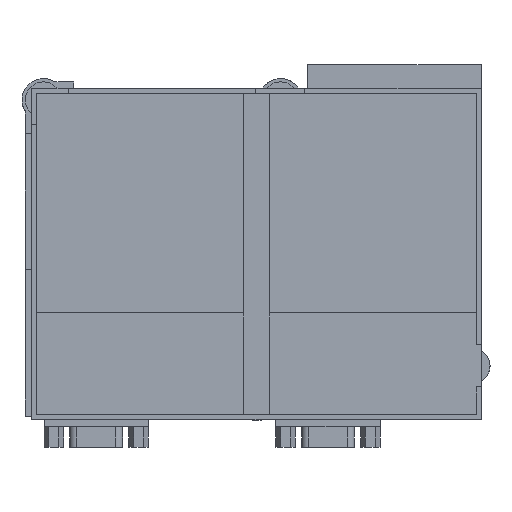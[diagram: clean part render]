
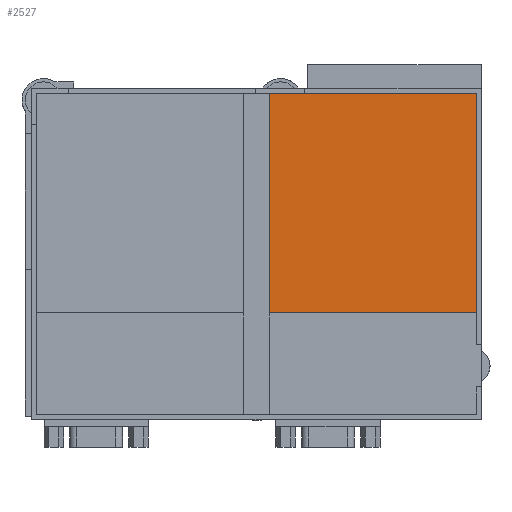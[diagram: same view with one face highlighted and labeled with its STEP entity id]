
A CAD part, top view. The second image highlights one B-rep face of the part: STEP entity #2527.
In plain terms, the highlighted planar face has unit normal (0, 0, 1).
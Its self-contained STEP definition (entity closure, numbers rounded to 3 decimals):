
#245=DIRECTION('',(1.,0.,0.));
#246=VECTOR('',#245,61.1);
#247=CARTESIAN_POINT('',(70.,96.3,-9.5));
#248=LINE('',#247,#246);
#249=DIRECTION('',(0.,-1.,0.));
#250=VECTOR('',#249,64.8);
#251=CARTESIAN_POINT('',(131.1,96.3,-9.5));
#252=LINE('',#251,#250);
#253=DIRECTION('',(-1.,0.,0.));
#254=VECTOR('',#253,61.1);
#255=CARTESIAN_POINT('',(131.1,31.5,-9.5));
#256=LINE('',#255,#254);
#277=DIRECTION('',(0.,1.,0.));
#278=VECTOR('',#277,64.8);
#279=CARTESIAN_POINT('',(70.,31.5,-9.5));
#280=LINE('',#279,#278);
#2011=CARTESIAN_POINT('',(131.1,96.3,-9.5));
#2012=VERTEX_POINT('',#2011);
#2023=CARTESIAN_POINT('',(131.1,31.5,-9.5));
#2024=CARTESIAN_POINT('',(70.,31.5,-9.5));
#2025=VERTEX_POINT('',#2023);
#2026=VERTEX_POINT('',#2024);
#2148=CARTESIAN_POINT('',(70.,96.3,-9.5));
#2150=VERTEX_POINT('',#2148);
#2514=CARTESIAN_POINT('',(0.,0.,-9.5));
#2515=DIRECTION('',(0.,0.,1.));
#2516=DIRECTION('',(1.,0.,0.));
#2517=AXIS2_PLACEMENT_3D('',#2514,#2515,#2516);
#2518=PLANE('',#2517);
#2519=ORIENTED_EDGE('',*,*,#2368,.T.);
#2520=ORIENTED_EDGE('',*,*,#2413,.T.);
#2522=ORIENTED_EDGE('',*,*,#2521,.T.);
#2524=ORIENTED_EDGE('',*,*,#2523,.T.);
#2525=EDGE_LOOP('',(#2519,#2520,#2522,#2524));
#2526=FACE_OUTER_BOUND('',#2525,.F.);
#2527=ADVANCED_FACE('',(#2526),#2518,.T.);
#2368=EDGE_CURVE('',#2150,#2012,#248,.T.);
#2413=EDGE_CURVE('',#2012,#2025,#252,.T.);
#2521=EDGE_CURVE('',#2025,#2026,#256,.T.);
#2523=EDGE_CURVE('',#2026,#2150,#280,.T.);
